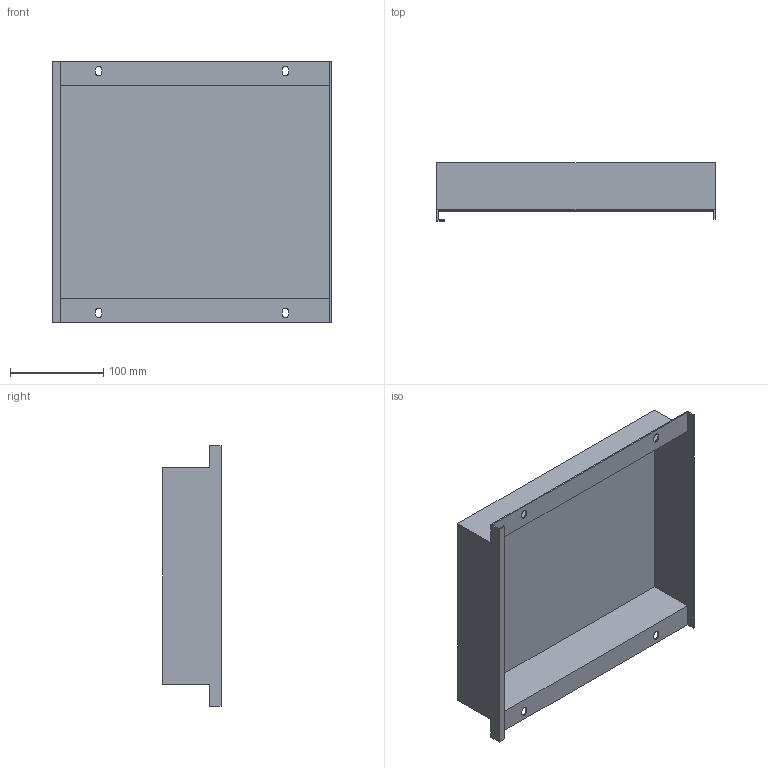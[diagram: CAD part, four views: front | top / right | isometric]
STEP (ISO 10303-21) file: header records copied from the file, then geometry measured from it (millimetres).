
FILE_DESCRIPTION (( 'STEP AP214' ), '1' );
FILE_NAME ('FO-00-PVSU-030-040 Ïëàñòðîí âíóòðåííèé óãëóáëåííûé 300õ400õ50.STEP', '2025-08-27T05:23:52', ( '' ), ( '' ), 'SwSTEP 2.0', 'SolidWorks 2023', '' );
FILE_SCHEMA (( 'AUTOMOTIVE_DESIGN' ));
Length unit declared in the file: millimetre
Products named in the file (1): FO-00-PVSU-030-040 Пластрон внутренний углубленный 300х400х50
Bounding box: 298 x 62.5 x 279 mm (x, y, z)
Volume: 200187.9 mm3; surface area: 287828.2 mm2
Topology: 1 solids, 1 shells, 48 faces, 138 edges, 92 vertices
Faces by surface type: plane 36, cylinder 12
Entity records: 1605 total; most frequent: CARTESIAN_POINT 279, ORIENTED_EDGE 276, DIRECTION 260, EDGE_CURVE 138, LINE 114, VECTOR 114, VERTEX_POINT 92, AXIS2_PLACEMENT_3D 73
